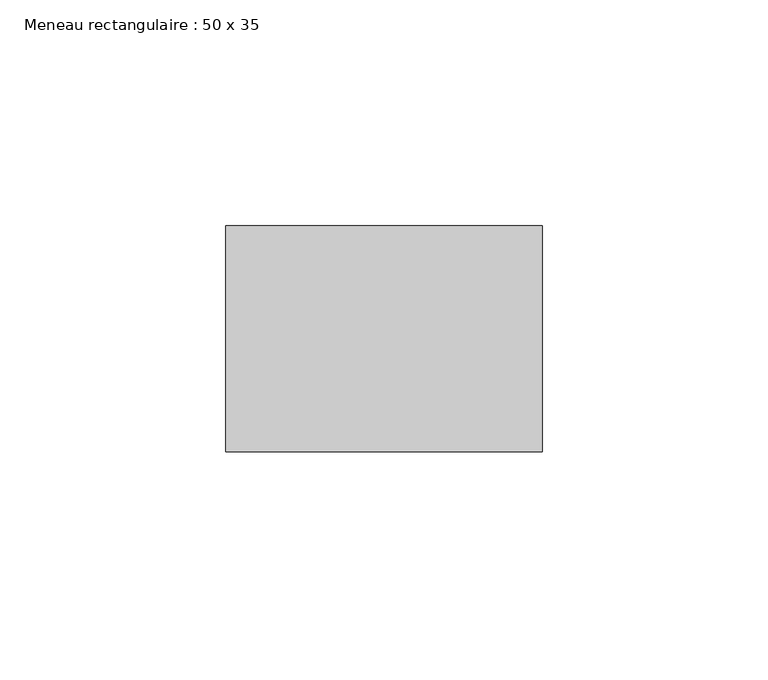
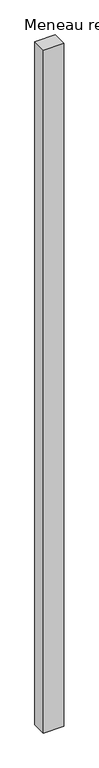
"""IFC4 building model written with IfcOpenShell, lengths in millimetres: member geometry, Meneau rectangulaire : 50 x 35."""

from ifc_helpers import new_model, si_unit, frame, origin, place, context, project, spatial, polyline, outline, extrude, source, transform, mapped, element, save


def meneau_rectangulaire_50_x_35_54ed0d08(model_context):
    return source(origin(), model_context, "Body", "SweptSolid", [
        extrude(outline(polyline([(0.0, 0.0), (0.0, -50.0), (-70.0, -50.0), (-70.0, 0.0), (0.0, 0.0)])), frame((0.0, 0.0, -2473.1612881), z_axis=(0.0, 0.0, 1.0), x_axis=(1.0, 0.0, 0.0)), (0.0, 0.0, 1.0), 2473.1612881),
    ])


if __name__ == "__main__":
    model = new_model("IFC4")
    model_context = context("Model", 3, world=origin())
    ifc_project = project(units=[si_unit("LENGTHUNIT", "METRE", prefix="MILLI")], contexts=[model_context])
    site = spatial("IfcSite", under=ifc_project)
    building = spatial("IfcBuilding", under=site)
    placement = place(None, origin())
    meneau_rectangulaire_50_x_35_shape = meneau_rectangulaire_50_x_35_54ed0d08(model_context)
    element("IfcMember", 1, ObjectType="Meneau rectangulaire : 50 x 35", at=placement, inside=building, context=model_context, shape_type="MappedRepresentation", body=[
        mapped(meneau_rectangulaire_50_x_35_shape, transform((0.0, 0.0, 0.0), x_axis=(1.0, 0.0, 0.0), y_axis=(0.0, 1.0, 0.0), z_axis=(0.0, 0.0, 1.0))),
    ])
    save(model, "model.ifc")
